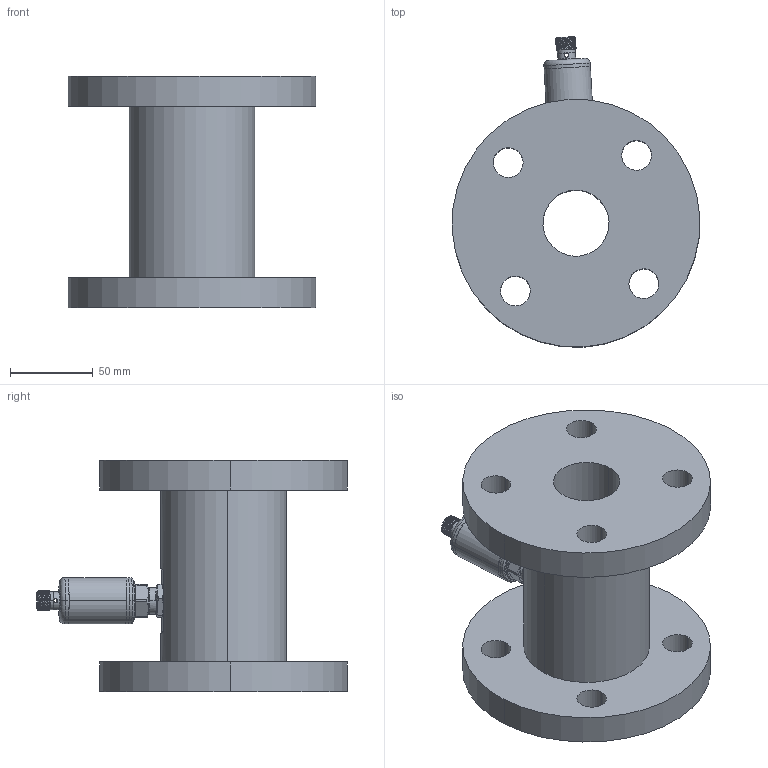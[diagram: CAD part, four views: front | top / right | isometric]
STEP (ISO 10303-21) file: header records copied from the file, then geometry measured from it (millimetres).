
FILE_DESCRIPTION (( 'STEP AP214' ), '1' );
FILE_NAME ('BFW1C40-J.STEP', '2026-01-20T05:24:10', ( '' ), ( '' ), 'SwSTEP 2.0', 'SolidWorks 2023', '' );
FILE_SCHEMA (( 'AUTOMOTIVE_DESIGN' ));
Length unit declared in the file: millimetre
Products named in the file (8): 探头; 连接管; DN40法兰华东; M16螺母; 壳体; BFW1C40-J; 垫片; 压力变送器
Assembly tree (7 placements, depth 3):
  BFW1C40-J
    压力变送器
      壳体
      垫片
      连接管
      探头
    M16螺母
    DN40法兰华东
Bounding box: 149.76 x 187.87 x 140 mm (x, y, z)
Volume: 904751.9 mm3; surface area: 140985.7 mm2
Topology: 6 solids, 6 shells, 253 faces, 644 edges, 417 vertices
Faces by surface type: cylinder 146, cone 48, plane 45, torus 8, bspline 6
Entity records: 12104 total; most frequent: CARTESIAN_POINT 6023, ORIENTED_EDGE 1288, DIRECTION 1176, EDGE_CURVE 644, AXIS2_PLACEMENT_3D 476, VERTEX_POINT 417, EDGE_LOOP 303, ADVANCED_FACE 253
